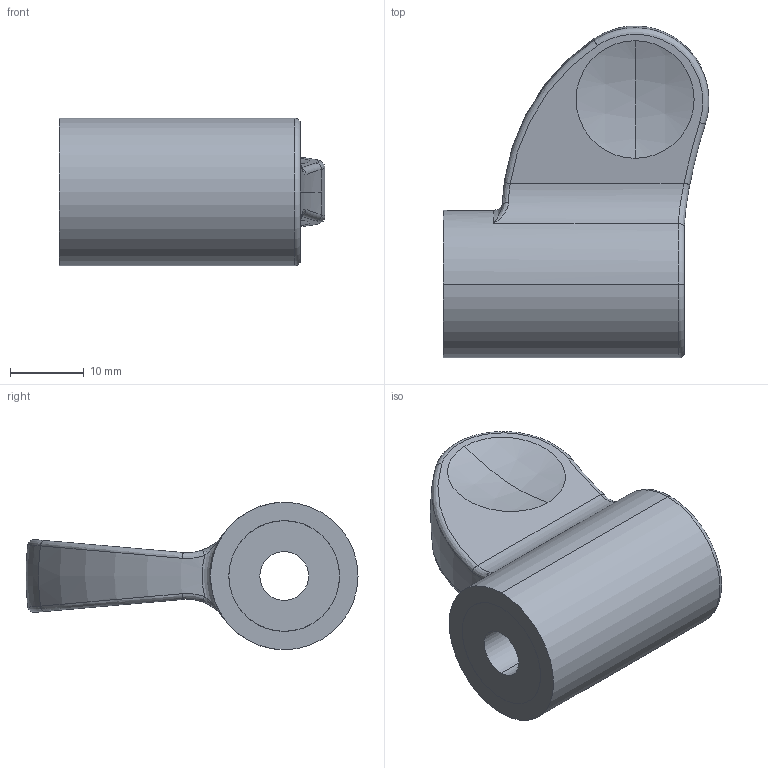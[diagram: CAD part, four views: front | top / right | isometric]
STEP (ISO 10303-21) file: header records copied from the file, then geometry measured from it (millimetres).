
FILE_DESCRIPTION (( 'STEP AP214' ), '1' );
FILE_NAME ('635-35-M8-D.step', '2020-06-24T11:10:03', ( '' ), ( '' ), 'SwSTEP 2.0', 'SolidWorks 2019', '' );
FILE_SCHEMA (( 'AUTOMOTIVE_DESIGN' ));
Length unit declared in the file: millimetre
Products named in the file (1): 635-35-M8-D
Bounding box: 35.99 x 45 x 20 mm (x, y, z)
Volume: 11613 mm3; surface area: 4969.2 mm2
Topology: 1 solids, 1 shells, 48 faces, 109 edges, 66 vertices
Faces by surface type: cylinder 15, torus 10, bspline 10, plane 7, sphere 6
Entity records: 2170 total; most frequent: CARTESIAN_POINT 1032, DIRECTION 231, ORIENTED_EDGE 214, AXIS2_PLACEMENT_3D 107, EDGE_CURVE 107, CIRCLE 68, VERTEX_POINT 66, EDGE_LOOP 55
